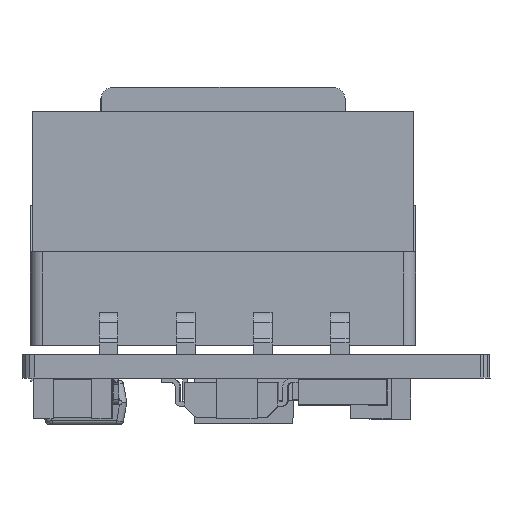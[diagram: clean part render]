
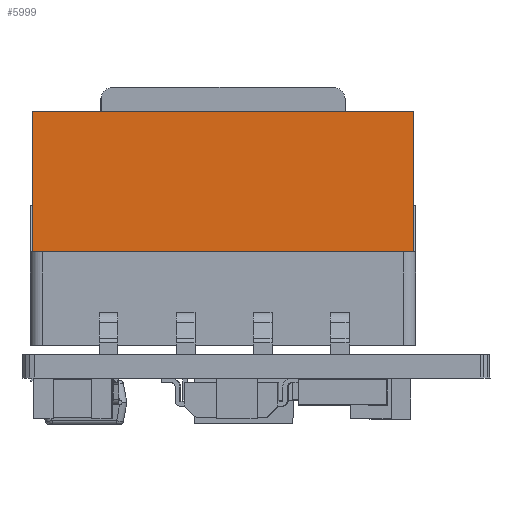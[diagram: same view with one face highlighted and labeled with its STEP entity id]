
A CAD part, left-side view. The second image highlights one B-rep face of the part: STEP entity #5999.
In plain terms, the highlighted planar face has unit normal (-1, 0, 0) as drawn and (0, -1, 0) by its records, which use the part's own axes.
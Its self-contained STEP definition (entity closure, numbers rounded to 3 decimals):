
#317 = LINE ( 'NONE', #39789, #892 ) ;
#892 = VECTOR ( 'NONE', #8881, 1000. ) ;
#2365 = DIRECTION ( 'NONE',  ( 0., -1., 0. ) ) ;
#2671 = FACE_OUTER_BOUND ( 'NONE', #60963, .T. ) ;
#3305 = DIRECTION ( 'NONE',  ( 0., 0., 1. ) ) ;
#5999 = ADVANCED_FACE ( 'NONE', ( #2671 ), #8143, .T. ) ;
#7748 = EDGE_CURVE ( 'NONE', #8835, #63442, #10511, .T. ) ;
#8143 = PLANE ( 'NONE',  #46551 ) ;
#8835 = VERTEX_POINT ( 'NONE', #41512 ) ;
#8881 = DIRECTION ( 'NONE',  ( 1., 0., 0. ) ) ;
#10511 = LINE ( 'NONE', #30237, #49728 ) ;
#11043 = LINE ( 'NONE', #20715, #12518 ) ;
#11121 = DIRECTION ( 'NONE',  ( -1., 0., 0. ) ) ;
#11128 = VERTEX_POINT ( 'NONE', #38210 ) ;
#12518 = VECTOR ( 'NONE', #35017, 1000. ) ;
#12982 = DIRECTION ( 'NONE',  ( 0., 0., -1. ) ) ;
#14562 = CARTESIAN_POINT ( 'NONE',  ( -3., -1., 8.175 ) ) ;
#20715 = CARTESIAN_POINT ( 'NONE',  ( -3., -1., 8.175 ) ) ;
#21077 = ORIENTED_EDGE ( 'NONE', *, *, #7748, .T. ) ;
#21160 = EDGE_CURVE ( 'NONE', #38872, #8835, #37923, .T. ) ;
#30237 = CARTESIAN_POINT ( 'NONE',  ( -3., -1., 8.175 ) ) ;
#35017 = DIRECTION ( 'NONE',  ( 0., 0., -1. ) ) ;
#35610 = ORIENTED_EDGE ( 'NONE', *, *, #55600, .T. ) ;
#37923 = LINE ( 'NONE', #46752, #44562 ) ;
#38210 = CARTESIAN_POINT ( 'NONE',  ( -3., -1., -8.175 ) ) ;
#38872 = VERTEX_POINT ( 'NONE', #63170 ) ;
#39789 = CARTESIAN_POINT ( 'NONE',  ( -3., -1., -8.175 ) ) ;
#41512 = CARTESIAN_POINT ( 'NONE',  ( 3., -1., 8.175 ) ) ;
#44562 = VECTOR ( 'NONE', #3305, 1000. ) ;
#46551 = AXIS2_PLACEMENT_3D ( 'NONE', #52591, #2365, #12982 ) ;
#46752 = CARTESIAN_POINT ( 'NONE',  ( 3., -1., 8.175 ) ) ;
#49728 = VECTOR ( 'NONE', #11121, 1000. ) ;
#52591 = CARTESIAN_POINT ( 'NONE',  ( -3., -1., 8.175 ) ) ;
#55600 = EDGE_CURVE ( 'NONE', #11128, #38872, #317, .T. ) ;
#56130 = ORIENTED_EDGE ( 'NONE', *, *, #21160, .T. ) ;
#57454 = ORIENTED_EDGE ( 'NONE', *, *, #58920, .T. ) ;
#58920 = EDGE_CURVE ( 'NONE', #63442, #11128, #11043, .T. ) ;
#60963 = EDGE_LOOP ( 'NONE', ( #57454, #35610, #56130, #21077 ) ) ;
#63170 = CARTESIAN_POINT ( 'NONE',  ( 3., -1., -8.175 ) ) ;
#63442 = VERTEX_POINT ( 'NONE', #14562 ) ;
